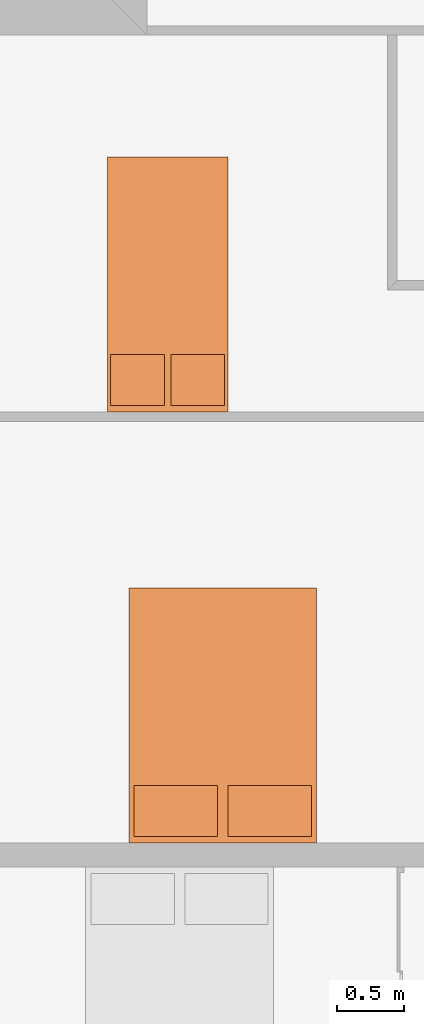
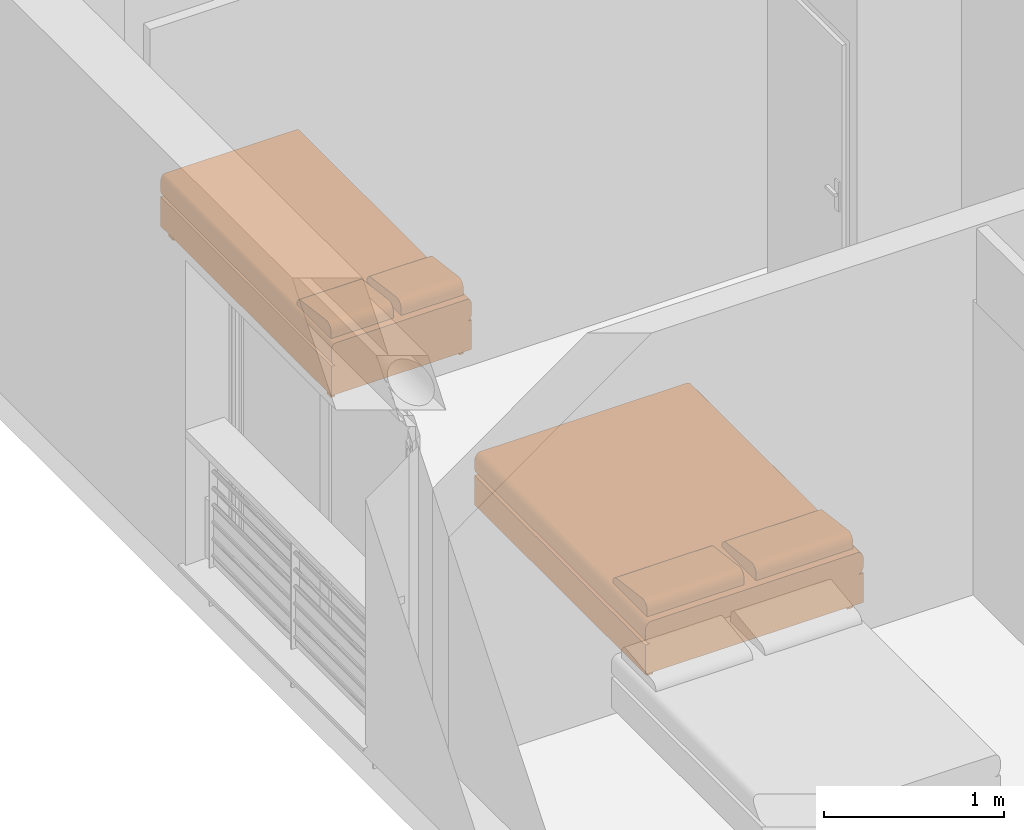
# One storey, part 157 of 171: 2 proxies.
"""IFC2X3 building model written with IfcOpenShell, lengths in millimetres."""

from ifc_helpers import new_model, entity, si_unit, converted_unit, derived_unit, money_unit, direction, frame, origin_with_axes, place, context, subcontext, project, spatial, open_shell, faceted_brep, surface_model, source, transform, mapped, type_object, element, save


model = new_model("IFC2X3")

# Units and contexts
model_context = context("Model", 3, precision=0.01, world=origin_with_axes(), true_north=direction((0.0, 1.0)))
body_context = subcontext(model_context, "Body", "Model", "MODEL_VIEW")
ifc_project = project(units=[si_unit("LENGTHUNIT", "METRE", prefix="MILLI"), si_unit("AREAUNIT", "SQUARE_METRE"), si_unit("VOLUMEUNIT", "CUBIC_METRE"), converted_unit("PLANEANGLEUNIT", "DEGREE", entity("IfcPlaneAngleMeasure", 0.0174532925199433), si_unit("PLANEANGLEUNIT", "RADIAN"), dimensions=[0, 0, 0, 0, 0, 0, 0]), money_unit("USD"), converted_unit("TIMEUNIT", "Year", entity("IfcTimeMeasure", 31557600.0), si_unit("TIMEUNIT", "SECOND"), dimensions=[0, 0, 1, 0, 0, 0, 0]), si_unit("MASSUNIT", "GRAM", prefix="KILO"), si_unit("THERMODYNAMICTEMPERATUREUNIT", "DEGREE_CELSIUS"), si_unit("LUMINOUSINTENSITYUNIT", "LUMEN"), si_unit("ENERGYUNIT", "JOULE", prefix="MEGA"), derived_unit("THERMALCONDUCTANCEUNIT", [(si_unit("POWERUNIT", "WATT"), 1), (si_unit("LENGTHUNIT", "METRE"), -1), (si_unit("THERMODYNAMICTEMPERATUREUNIT", "KELVIN"), -1)]), derived_unit("SPECIFICHEATCAPACITYUNIT", [(si_unit("ENERGYUNIT", "JOULE"), 1), (si_unit("MASSUNIT", "GRAM", prefix="KILO"), -1), (si_unit("THERMODYNAMICTEMPERATUREUNIT", "KELVIN"), -1)]), derived_unit("MASSDENSITYUNIT", [(si_unit("MASSUNIT", "GRAM", prefix="KILO"), 1), (si_unit("VOLUMEUNIT", "CUBIC_METRE"), -1)])], contexts=[model_context])

# Site, building, storey
site_placement = place(None, origin_with_axes())
site = spatial("IfcSite", under=ifc_project, at=site_placement, Name="Site", CompositionType="ELEMENT")
building_placement = place(site_placement, origin_with_axes())
building = spatial("IfcBuilding", under=site, at=building_placement, Name="Bâtiment", CompositionType="ELEMENT")
storey_placement = place(building_placement, frame((0.0, 0.0, 3000.0), z_axis=(0.0, 0.0, 1.0), x_axis=(1.0, 0.0, 0.0)))
storey = spatial("IfcBuildingStorey", under=building, at=storey_placement, Name="rdc", CompositionType="ELEMENT", Elevation=3000.0)

# Proxies
building_element_proxy_type = type_object("IfcBuildingElementProxyType", PredefinedType="NOTDEFINED")
shared_shape_1 = source(origin_with_axes(), body_context, "Body", "SurfaceModel", [
    faceted_brep([(400.0, -95.0, 0.0), (400.0, -47.5, 0.0), (425.0000000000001, -47.5, 0.0), (425.0000000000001, -95.0, 0.0), (400.0, -95.0, 50.0), (400.0, -47.5, 50.0), (425.0000000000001, -47.5, 50.0), (425.0000000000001, -95.0, 50.0)], [[[0, 1, 2, 3]], [[0, 4, 5, 1]], [[1, 5, 6, 2]], [[2, 6, 7, 3]], [[3, 7, 4, 0]], [[7, 6, 5, 4]]]),
    faceted_brep([(400.0, -1852.5, 0.0), (400.0, -1805.0, 0.0), (425.0000000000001, -1805.0, 0.0), (425.0000000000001, -1852.5, 0.0), (400.0, -1852.5, 50.0), (400.0, -1805.0, 50.0), (425.0000000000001, -1805.0, 50.0), (425.0000000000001, -1852.5, 50.0)], [[[0, 1, 2, 3]], [[0, 4, 5, 1]], [[1, 5, 6, 2]], [[2, 6, 7, 3]], [[3, 7, 4, 0]], [[7, 6, 5, 4]]]),
    faceted_brep([(-425.0000000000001, -1852.5, 0.0), (-425.0000000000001, -1805.0, 0.0), (-400.0, -1805.0, 0.0), (-400.0, -1852.5, 0.0), (-425.0000000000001, -1852.5, 50.0), (-425.0000000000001, -1805.0, 50.0), (-400.0, -1805.0, 50.0), (-400.0, -1852.5, 50.0)], [[[0, 1, 2, 3]], [[0, 4, 5, 1]], [[1, 5, 6, 2]], [[2, 6, 7, 3]], [[3, 7, 4, 0]], [[7, 6, 5, 4]]]),
    faceted_brep([(-425.0000000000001, -94.99999999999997, 0.0), (-425.0000000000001, -47.49999999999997, 0.0), (-400.0, -47.49999999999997, 0.0), (-400.0, -94.99999999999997, 0.0), (-425.0000000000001, -94.99999999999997, 50.0), (-425.0000000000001, -47.49999999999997, 50.0), (-400.0, -47.49999999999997, 50.0), (-400.0, -94.99999999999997, 50.0)], [[[0, 1, 2, 3]], [[0, 4, 5, 1]], [[1, 5, 6, 2]], [[2, 6, 7, 3]], [[3, 7, 4, 0]], [[7, 6, 5, 4]]]),
    faceted_brep([(450.0, 0.0, 50.0), (450.0, -1900.0, 50.00000000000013), (-450.0, -1900.0, 50.00000000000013), (-450.0, 0.0, 50.0), (450.0, 0.0, 250.0), (450.0, -1900.0, 250.0000000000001), (-450.0, -1900.0, 250.0000000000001), (-450.0, 0.0, 250.0)], [[[0, 1, 2, 3]], [[4, 5, 1, 0]], [[1, 5, 6, 2]], [[3, 2, 6, 7]], [[0, 3, 7, 4]], [[7, 6, 5, 4]]]),
    surface_model("IfcShellBasedSurfaceModel", [(-425.0000000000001, 0.0, 250.0), (-425.0000000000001, -1900.0, 250.0000000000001), (-429.3412044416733, -1900.0, 250.7596123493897), (-429.3412044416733, 0.0, 250.7596123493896), (425.0000000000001, -1900.0, 250.0000000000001), (429.3412044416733, -1900.0, 250.7596123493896), (433.5505035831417, -1900.0, 253.0153689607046), (437.5, -1900.0, 256.6987298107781), (441.0696902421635, -1900.0, 261.6977778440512), (444.1511110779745, -1900.0, 267.8606195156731), (446.650635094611, -1900.0, 275.0000000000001), (448.4923155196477, -1900.0, 282.8989928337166), (449.6201938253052, -1900.0, 291.3175911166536), (450.0, -1900.0, 300.0000000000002), (450.0000000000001, -1900.0, 350.0000000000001), (449.6201938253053, -1900.0, 358.6824088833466), (448.4923155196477, -1900.0, 367.1010071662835), (446.650635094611, -1900.0, 375.0000000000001), (444.1511110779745, -1900.0, 382.1393804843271), (441.0696902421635, -1900.0, 388.302222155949), (437.5000000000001, -1900.0, 393.3012701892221), (433.5505035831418, -1900.0, 396.9846310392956), (429.3412044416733, -1900.0, 399.2403876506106), (425.0000000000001, -1900.0, 400.0000000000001), (-425.0, -1900.0, 400.0000000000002), (-429.3412044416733, -1900.0, 399.2403876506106), (-433.5505035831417, -1900.0, 396.9846310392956), (-437.5, -1900.0, 393.3012701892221), (-441.0696902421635, -1900.0, 388.302222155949), (-444.1511110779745, -1900.0, 382.1393804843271), (-446.6506350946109, -1900.0, 375.0000000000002), (-448.4923155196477, -1900.0, 367.1010071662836), (-449.6201938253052, -1900.0, 358.6824088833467), (-450.0, -1900.0, 350.0000000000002), (-450.0, -1900.0, 300.0000000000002), (-449.6201938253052, -1900.0, 291.3175911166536), (-448.4923155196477, -1900.0, 282.8989928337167), (-446.650635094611, -1900.0, 275.0000000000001), (-444.1511110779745, -1900.0, 267.8606195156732), (-441.0696902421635, -1900.0, 261.6977778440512), (-437.5000000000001, -1900.0, 256.6987298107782), (-433.5505035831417, -1900.0, 253.0153689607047), (-433.5505035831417, 0.0, 253.0153689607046), (425.0000000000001, 0.0, 250.0), (-437.5000000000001, 0.0, 256.698729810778), (-441.0696902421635, 0.0, 261.6977778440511), (-444.1511110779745, 0.0, 267.8606195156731), (-446.650635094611, 0.0, 275.0), (-448.4923155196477, 0.0, 282.8989928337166), (-449.6201938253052, 0.0, 291.3175911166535), (-450.0, 0.0, 300.0000000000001), (-450.0, 0.0, 350.0000000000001), (-449.6201938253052, 0.0, 358.6824088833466), (-448.4923155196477, 0.0, 367.1010071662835), (-446.6506350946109, 0.0, 375.0000000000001), (-444.1511110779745, 0.0, 382.139380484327), (-441.0696902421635, 0.0, 388.3022221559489), (-437.5, 0.0, 393.301270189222), (-433.5505035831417, 0.0, 396.9846310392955), (-429.3412044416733, 0.0, 399.2403876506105), (-425.0, 0.0, 400.0000000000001), (425.0000000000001, 0.0, 400.0), (429.3412044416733, 0.0, 399.2403876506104), (433.5505035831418, 0.0, 396.9846310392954), (437.5000000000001, 0.0, 393.301270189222), (441.0696902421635, 0.0, 388.3022221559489), (444.1511110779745, 0.0, 382.139380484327), (446.650635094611, 0.0, 375.0), (448.4923155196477, 0.0, 367.1010071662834), (449.6201938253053, 0.0, 358.6824088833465), (450.0000000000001, 0.0, 350.0), (450.0, 0.0, 300.0000000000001), (449.6201938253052, 0.0, 291.3175911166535), (448.4923155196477, 0.0, 282.8989928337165), (446.650635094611, 0.0, 275.0), (444.1511110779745, 0.0, 267.860619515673), (441.0696902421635, 0.0, 261.6977778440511), (437.5, 0.0, 256.698729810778), (433.5505035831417, 0.0, 253.0153689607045), (429.3412044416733, 0.0, 250.7596123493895)], [open_shell([[[0, 1, 2, 3]], [[4, 5, 6, 7, 8, 9, 10, 11, 12, 13, 14, 15, 16, 17, 18, 19, 20, 21, 22, 23, 24, 25, 26, 27, 28, 29, 30, 31, 32, 33, 34, 35, 36, 37, 38, 39, 40, 41, 2, 1]], [[3, 2, 41, 42]], [[43, 0, 3, 42, 44, 45, 46, 47, 48, 49, 50, 51, 52, 53, 54, 55, 56, 57, 58, 59, 60, 61, 62, 63, 64, 65, 66, 67, 68, 69, 70, 71, 72, 73, 74, 75, 76, 77, 78, 79]], [[79, 5, 4, 43]], [[78, 6, 5, 79]], [[77, 7, 6, 78]], [[76, 8, 7, 77]], [[75, 9, 8, 76]], [[74, 10, 9, 75]], [[73, 11, 10, 74]], [[72, 12, 11, 73]], [[71, 13, 12, 72]], [[70, 14, 13, 71]], [[69, 15, 14, 70]], [[68, 16, 15, 69]], [[67, 17, 16, 68]], [[66, 18, 17, 67]], [[65, 19, 18, 66]], [[64, 20, 19, 65]], [[63, 21, 20, 64]], [[62, 22, 21, 63]], [[61, 23, 22, 62]], [[60, 24, 23, 61]], [[59, 25, 24, 60]], [[58, 26, 25, 59]], [[57, 27, 26, 58]], [[56, 28, 27, 57]], [[55, 29, 28, 56]], [[54, 30, 29, 55]], [[53, 31, 30, 54]], [[52, 32, 31, 53]], [[51, 33, 32, 52]], [[50, 34, 33, 51]], [[49, 35, 34, 50]], [[48, 36, 35, 49]], [[47, 37, 36, 48]], [[46, 38, 37, 47]], [[45, 39, 38, 46]], [[44, 40, 39, 45]], [[42, 41, 40, 44]]])]),
    faceted_brep([(-24.99999999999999, -47.49999999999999, 400.0), (-425.0, -47.50000000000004, 400.0000000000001), (-425.0, -47.50000000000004, 443.4000000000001), (-24.99999999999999, -47.49999999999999, 443.4), (-24.99999999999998, -427.5, 400.0), (-425.0, -427.5, 400.0000000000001), (-425.0, -427.6960812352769, 408.6954428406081), (-425.0, -426.4675711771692, 417.2966661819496), (-425.0, -423.8511300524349, 425.5469991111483), (-425.0, -419.924835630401, 433.2002417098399), (-425.0, -414.8058532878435, 440.0280119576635), (-425.0, -408.6469396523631, 445.826560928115), (-425.0, -401.6318841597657, 450.4228529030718), (-425.0, -393.9700245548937, 453.6797289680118), (-425.0, -385.89, 455.5000000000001), (-425.0, -100.8900000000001, 493.0000000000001), (-425.0, -92.85488048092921, 493.3370808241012), (-425.0, -84.88093291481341, 492.2422169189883), (-425.0, -77.19681007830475, 489.7468034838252), (-425.0, -70.02285403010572, 485.922396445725), (-425.0, -63.56477780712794, 480.878660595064), (-425.0, -58.00776660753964, 474.7602249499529), (-425.0, -53.51116760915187, 467.7425355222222), (-425.0, -50.20392069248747, 460.0268244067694), (-425.0, -48.18086109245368, 451.8343394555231), (-24.99999999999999, -48.18086109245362, 451.834339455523), (-24.99999999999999, -50.20392069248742, 460.0268244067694), (-24.99999999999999, -53.51116760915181, 467.7425355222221), (-24.99999999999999, -58.00776660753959, 474.7602249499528), (-24.99999999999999, -63.56477780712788, 480.878660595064), (-24.99999999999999, -70.02285403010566, 485.922396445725), (-24.99999999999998, -77.19681007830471, 489.7468034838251), (-24.99999999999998, -84.88093291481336, 492.2422169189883), (-24.99999999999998, -92.85488048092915, 493.3370808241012), (-24.99999999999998, -100.89, 493.0000000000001), (-24.99999999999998, -385.89, 455.5), (-24.99999999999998, -393.9700245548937, 453.6797289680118), (-24.99999999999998, -401.6318841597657, 450.4228529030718), (-24.99999999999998, -408.6469396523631, 445.826560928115), (-24.99999999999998, -414.8058532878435, 440.0280119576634), (-24.99999999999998, -419.9248356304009, 433.2002417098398), (-24.99999999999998, -423.8511300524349, 425.5469991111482), (-24.99999999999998, -426.4675711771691, 417.2966661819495), (-24.99999999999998, -427.6960812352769, 408.695442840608)], [[[0, 1, 2, 3]], [[4, 5, 1, 0]], [[1, 5, 6, 7, 8, 9, 10, 11, 12, 13, 14, 15, 16, 17, 18, 19, 20, 21, 22, 23, 24, 2]], [[3, 2, 24, 25]], [[0, 3, 25, 26, 27, 28, 29, 30, 31, 32, 33, 34, 35, 36, 37, 38, 39, 40, 41, 42, 43, 4]], [[43, 6, 5, 4]], [[42, 7, 6, 43]], [[41, 8, 7, 42]], [[40, 9, 8, 41]], [[39, 10, 9, 40]], [[38, 11, 10, 39]], [[37, 12, 11, 38]], [[36, 13, 12, 37]], [[35, 14, 13, 36]], [[34, 15, 14, 35]], [[33, 16, 15, 34]], [[32, 17, 16, 33]], [[31, 18, 17, 32]], [[30, 19, 18, 31]], [[29, 20, 19, 30]], [[28, 21, 20, 29]], [[27, 22, 21, 28]], [[26, 23, 22, 27]], [[25, 24, 23, 26]]]),
    faceted_brep([(425.0000000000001, -47.49999999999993, 399.9999999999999), (25.00000000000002, -47.49999999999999, 400.0), (25.00000000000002, -47.49999999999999, 443.4), (425.0000000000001, -47.49999999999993, 443.4), (425.0000000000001, -427.4999999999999, 399.9999999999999), (25.00000000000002, -427.4999999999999, 400.0), (25.00000000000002, -427.6960812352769, 408.695442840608), (25.00000000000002, -426.4675711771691, 417.2966661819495), (25.00000000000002, -423.8511300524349, 425.5469991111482), (25.00000000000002, -419.9248356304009, 433.2002417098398), (25.00000000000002, -414.8058532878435, 440.0280119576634), (25.00000000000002, -408.6469396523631, 445.826560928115), (25.00000000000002, -401.6318841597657, 450.4228529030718), (25.00000000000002, -393.9700245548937, 453.6797289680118), (25.00000000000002, -385.8899999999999, 455.5), (25.00000000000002, -100.89, 493.0000000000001), (25.00000000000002, -92.85488048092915, 493.3370808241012), (25.00000000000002, -84.88093291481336, 492.2422169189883), (25.00000000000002, -77.19681007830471, 489.7468034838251), (25.00000000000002, -70.02285403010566, 485.922396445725), (25.00000000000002, -63.56477780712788, 480.878660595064), (25.00000000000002, -58.00776660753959, 474.7602249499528), (25.00000000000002, -53.51116760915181, 467.7425355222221), (25.00000000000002, -50.20392069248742, 460.0268244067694), (25.00000000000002, -48.18086109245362, 451.834339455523), (425.0000000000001, -48.18086109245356, 451.834339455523), (425.0000000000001, -50.20392069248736, 460.0268244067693), (425.0000000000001, -53.51116760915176, 467.7425355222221), (425.0000000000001, -58.00776660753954, 474.7602249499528), (425.0000000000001, -63.56477780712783, 480.8786605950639), (425.0000000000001, -70.0228540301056, 485.9223964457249), (425.0000000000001, -77.19681007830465, 489.7468034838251), (425.0000000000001, -84.8809329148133, 492.2422169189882), (425.0000000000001, -92.8548804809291, 493.3370808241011), (425.0000000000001, -100.89, 493.0), (425.0000000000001, -385.8899999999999, 455.4999999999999), (425.0000000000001, -393.9700245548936, 453.6797289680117), (425.0000000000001, -401.6318841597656, 450.4228529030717), (425.0000000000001, -408.646939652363, 445.8265609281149), (425.0000000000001, -414.8058532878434, 440.0280119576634), (425.0000000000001, -419.9248356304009, 433.2002417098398), (425.0000000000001, -423.8511300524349, 425.5469991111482), (425.0000000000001, -426.4675711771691, 417.2966661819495), (425.0000000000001, -427.6960812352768, 408.6954428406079)], [[[0, 1, 2, 3]], [[4, 5, 1, 0]], [[1, 5, 6, 7, 8, 9, 10, 11, 12, 13, 14, 15, 16, 17, 18, 19, 20, 21, 22, 23, 24, 2]], [[3, 2, 24, 25]], [[0, 3, 25, 26, 27, 28, 29, 30, 31, 32, 33, 34, 35, 36, 37, 38, 39, 40, 41, 42, 43, 4]], [[43, 6, 5, 4]], [[42, 7, 6, 43]], [[41, 8, 7, 42]], [[40, 9, 8, 41]], [[39, 10, 9, 40]], [[38, 11, 10, 39]], [[37, 12, 11, 38]], [[36, 13, 12, 37]], [[35, 14, 13, 36]], [[34, 15, 14, 35]], [[33, 16, 15, 34]], [[32, 17, 16, 33]], [[31, 18, 17, 32]], [[30, 19, 18, 31]], [[29, 20, 19, 30]], [[28, 21, 20, 29]], [[27, 22, 21, 28]], [[26, 23, 22, 27]], [[25, 24, 23, 26]]]),
])
proxy_1_placement = place(storey_placement, frame((2218630.361488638, -629220.7852898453, 0.0), z_axis=(0.0, 0.0, 1.0), x_axis=(-0.9999999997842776, -2.077125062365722e-05, 0.0)))
element("IfcBuildingElementProxy", 1, at=proxy_1_placement, inside=storey, type_object=building_element_proxy_type, Name="Obj.-003", context=body_context, shape_type="MappedRepresentation", body=[
    mapped(shared_shape_1, transform((0.0, 0.0, 0.0))),
])
shared_shape_2 = source(origin_with_axes(), body_context, "Body", "SurfaceModel", [
    faceted_brep([(622.2222222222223, -95.0, 0.0), (622.2222222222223, -47.5, 0.0), (661.1111111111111, -47.5, 0.0), (661.1111111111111, -95.0, 0.0), (622.2222222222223, -95.0, 50.0), (622.2222222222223, -47.5, 50.0), (661.1111111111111, -47.5, 50.0), (661.1111111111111, -95.0, 50.0)], [[[0, 1, 2, 3]], [[0, 4, 5, 1]], [[1, 5, 6, 2]], [[2, 6, 7, 3]], [[3, 7, 4, 0]], [[7, 6, 5, 4]]]),
    faceted_brep([(622.2222222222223, -1852.5, 0.0), (622.2222222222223, -1805.0, 0.0), (661.1111111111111, -1805.0, 0.0), (661.1111111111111, -1852.5, 0.0), (622.2222222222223, -1852.5, 50.0), (622.2222222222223, -1805.0, 50.0), (661.1111111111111, -1805.0, 50.0), (661.1111111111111, -1852.5, 50.0)], [[[0, 1, 2, 3]], [[0, 4, 5, 1]], [[1, 5, 6, 2]], [[2, 6, 7, 3]], [[3, 7, 4, 0]], [[7, 6, 5, 4]]]),
    faceted_brep([(-661.111111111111, -1852.5, 0.0), (-661.111111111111, -1805.0, 0.0), (-622.2222222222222, -1805.0, 0.0), (-622.2222222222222, -1852.5, 0.0), (-661.111111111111, -1852.5, 50.0), (-661.111111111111, -1805.0, 50.0), (-622.2222222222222, -1805.0, 50.0), (-622.2222222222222, -1852.5, 50.0)], [[[0, 1, 2, 3]], [[0, 4, 5, 1]], [[1, 5, 6, 2]], [[2, 6, 7, 3]], [[3, 7, 4, 0]], [[7, 6, 5, 4]]]),
    faceted_brep([(-661.111111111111, -94.99999999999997, 0.0), (-661.111111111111, -47.49999999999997, 0.0), (-622.2222222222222, -47.49999999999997, 0.0), (-622.2222222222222, -94.99999999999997, 0.0), (-661.111111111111, -94.99999999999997, 50.0), (-661.111111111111, -47.49999999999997, 50.0), (-622.2222222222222, -47.49999999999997, 50.0), (-622.2222222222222, -94.99999999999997, 50.0)], [[[0, 1, 2, 3]], [[0, 4, 5, 1]], [[1, 5, 6, 2]], [[2, 6, 7, 3]], [[3, 7, 4, 0]], [[7, 6, 5, 4]]]),
    faceted_brep([(700.0, 0.0, 50.0), (700.0, -1900.0, 50.00000000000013), (-700.0, -1900.0, 50.00000000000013), (-700.0, 0.0, 50.0), (700.0, 0.0, 250.0), (700.0, -1900.0, 250.0000000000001), (-700.0, -1900.0, 250.0000000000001), (-700.0, 0.0, 250.0)], [[[0, 1, 2, 3]], [[4, 5, 1, 0]], [[1, 5, 6, 2]], [[3, 2, 6, 7]], [[0, 3, 7, 4]], [[7, 6, 5, 4]]]),
    surface_model("IfcShellBasedSurfaceModel", [(-661.1111111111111, 0.0, 250.0), (-661.1111111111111, -1900.0, 250.0000000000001), (-667.8640957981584, -1900.0, 250.7596123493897), (-667.8640957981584, 0.0, 250.7596123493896), (661.1111111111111, -1900.0, 250.0000000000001), (667.8640957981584, -1900.0, 250.7596123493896), (674.4118944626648, -1900.0, 253.0153689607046), (680.5555555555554, -1900.0, 256.6987298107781), (686.1084070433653, -1900.0, 261.6977778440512), (690.9017283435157, -1900.0, 267.8606195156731), (694.7898768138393, -1900.0, 275.0000000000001), (697.654713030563, -1900.0, 282.8989928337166), (699.4091903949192, -1900.0, 291.3175911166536), (700.0, -1900.0, 300.0000000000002), (700.0000000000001, -1900.0, 350.0000000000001), (699.4091903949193, -1900.0, 358.6824088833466), (697.654713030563, -1900.0, 367.1010071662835), (694.7898768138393, -1900.0, 375.0000000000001), (690.9017283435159, -1900.0, 382.1393804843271), (686.1084070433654, -1900.0, 388.302222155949), (680.5555555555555, -1900.0, 393.3012701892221), (674.4118944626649, -1900.0, 396.9846310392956), (667.8640957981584, -1900.0, 399.2403876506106), (661.1111111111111, -1900.0, 400.0000000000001), (-661.111111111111, -1900.0, 400.0000000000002), (-667.8640957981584, -1900.0, 399.2403876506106), (-674.4118944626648, -1900.0, 396.9846310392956), (-680.5555555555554, -1900.0, 393.3012701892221), (-686.1084070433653, -1900.0, 388.302222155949), (-690.9017283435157, -1900.0, 382.1393804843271), (-694.7898768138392, -1900.0, 375.0000000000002), (-697.654713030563, -1900.0, 367.1010071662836), (-699.4091903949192, -1900.0, 358.6824088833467), (-700.0, -1900.0, 350.0000000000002), (-700.0, -1900.0, 300.0000000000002), (-699.4091903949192, -1900.0, 291.3175911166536), (-697.654713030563, -1900.0, 282.8989928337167), (-694.7898768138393, -1900.0, 275.0000000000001), (-690.9017283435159, -1900.0, 267.8606195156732), (-686.1084070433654, -1900.0, 261.6977778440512), (-680.5555555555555, -1900.0, 256.6987298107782), (-674.4118944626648, -1900.0, 253.0153689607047), (-674.4118944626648, 0.0, 253.0153689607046), (661.1111111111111, 0.0, 250.0), (-680.5555555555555, 0.0, 256.698729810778), (-686.1084070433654, 0.0, 261.6977778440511), (-690.9017283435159, 0.0, 267.8606195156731), (-694.7898768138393, 0.0, 275.0), (-697.654713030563, 0.0, 282.8989928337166), (-699.4091903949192, 0.0, 291.3175911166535), (-700.0, 0.0, 300.0000000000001), (-700.0, 0.0, 350.0000000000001), (-699.4091903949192, 0.0, 358.6824088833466), (-697.654713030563, 0.0, 367.1010071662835), (-694.7898768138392, 0.0, 375.0000000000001), (-690.9017283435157, 0.0, 382.139380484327), (-686.1084070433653, 0.0, 388.3022221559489), (-680.5555555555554, 0.0, 393.301270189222), (-674.4118944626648, 0.0, 396.9846310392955), (-667.8640957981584, 0.0, 399.2403876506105), (-661.111111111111, 0.0, 400.0000000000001), (661.1111111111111, 0.0, 400.0), (667.8640957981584, 0.0, 399.2403876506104), (674.4118944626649, 0.0, 396.9846310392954), (680.5555555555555, 0.0, 393.301270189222), (686.1084070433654, 0.0, 388.3022221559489), (690.9017283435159, 0.0, 382.139380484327), (694.7898768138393, 0.0, 375.0), (697.654713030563, 0.0, 367.1010071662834), (699.4091903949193, 0.0, 358.6824088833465), (700.0000000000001, 0.0, 350.0), (700.0, 0.0, 300.0000000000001), (699.4091903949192, 0.0, 291.3175911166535), (697.654713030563, 0.0, 282.8989928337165), (694.7898768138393, 0.0, 275.0), (690.9017283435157, 0.0, 267.860619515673), (686.1084070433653, 0.0, 261.6977778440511), (680.5555555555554, 0.0, 256.698729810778), (674.4118944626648, 0.0, 253.0153689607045), (667.8640957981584, 0.0, 250.7596123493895)], [open_shell([[[0, 1, 2, 3]], [[4, 5, 6, 7, 8, 9, 10, 11, 12, 13, 14, 15, 16, 17, 18, 19, 20, 21, 22, 23, 24, 25, 26, 27, 28, 29, 30, 31, 32, 33, 34, 35, 36, 37, 38, 39, 40, 41, 2, 1]], [[3, 2, 41, 42]], [[43, 0, 3, 42, 44, 45, 46, 47, 48, 49, 50, 51, 52, 53, 54, 55, 56, 57, 58, 59, 60, 61, 62, 63, 64, 65, 66, 67, 68, 69, 70, 71, 72, 73, 74, 75, 76, 77, 78, 79]], [[79, 5, 4, 43]], [[78, 6, 5, 79]], [[77, 7, 6, 78]], [[76, 8, 7, 77]], [[75, 9, 8, 76]], [[74, 10, 9, 75]], [[73, 11, 10, 74]], [[72, 12, 11, 73]], [[71, 13, 12, 72]], [[70, 14, 13, 71]], [[69, 15, 14, 70]], [[68, 16, 15, 69]], [[67, 17, 16, 68]], [[66, 18, 17, 67]], [[65, 19, 18, 66]], [[64, 20, 19, 65]], [[63, 21, 20, 64]], [[62, 22, 21, 63]], [[61, 23, 22, 62]], [[60, 24, 23, 61]], [[59, 25, 24, 60]], [[58, 26, 25, 59]], [[57, 27, 26, 58]], [[56, 28, 27, 57]], [[55, 29, 28, 56]], [[54, 30, 29, 55]], [[53, 31, 30, 54]], [[52, 32, 31, 53]], [[51, 33, 32, 52]], [[50, 34, 33, 51]], [[49, 35, 34, 50]], [[48, 36, 35, 49]], [[47, 37, 36, 48]], [[46, 38, 37, 47]], [[45, 39, 38, 46]], [[44, 40, 39, 45]], [[42, 41, 40, 44]]])]),
    faceted_brep([(-38.88888888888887, -47.49999999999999, 400.0), (-661.1111111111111, -47.50000000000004, 400.0000000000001), (-661.1111111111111, -47.50000000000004, 443.4000000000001), (-38.88888888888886, -47.49999999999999, 443.4), (-38.88888888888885, -427.5, 400.0), (-661.1111111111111, -427.5, 400.0000000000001), (-661.1111111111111, -427.6960812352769, 408.6954428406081), (-661.1111111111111, -426.4675711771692, 417.2966661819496), (-661.1111111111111, -423.8511300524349, 425.5469991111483), (-661.1111111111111, -419.924835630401, 433.2002417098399), (-661.1111111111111, -414.8058532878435, 440.0280119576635), (-661.1111111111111, -408.6469396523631, 445.826560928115), (-661.1111111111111, -401.6318841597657, 450.4228529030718), (-661.1111111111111, -393.9700245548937, 453.6797289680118), (-661.1111111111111, -385.89, 455.5000000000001), (-661.1111111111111, -100.8900000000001, 493.0000000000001), (-661.1111111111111, -92.85488048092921, 493.3370808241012), (-661.1111111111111, -84.88093291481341, 492.2422169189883), (-661.1111111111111, -77.19681007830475, 489.7468034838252), (-661.1111111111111, -70.02285403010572, 485.922396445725), (-661.1111111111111, -63.56477780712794, 480.878660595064), (-661.1111111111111, -58.00776660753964, 474.7602249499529), (-661.1111111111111, -53.51116760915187, 467.7425355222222), (-661.1111111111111, -50.20392069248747, 460.0268244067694), (-661.1111111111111, -48.18086109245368, 451.8343394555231), (-38.88888888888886, -48.18086109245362, 451.834339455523), (-38.88888888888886, -50.20392069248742, 460.0268244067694), (-38.88888888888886, -53.51116760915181, 467.7425355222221), (-38.88888888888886, -58.00776660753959, 474.7602249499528), (-38.88888888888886, -63.56477780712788, 480.878660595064), (-38.88888888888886, -70.02285403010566, 485.922396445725), (-38.88888888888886, -77.19681007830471, 489.7468034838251), (-38.88888888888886, -84.88093291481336, 492.2422169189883), (-38.88888888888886, -92.85488048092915, 493.3370808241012), (-38.88888888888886, -100.89, 493.0000000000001), (-38.88888888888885, -385.89, 455.5), (-38.88888888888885, -393.9700245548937, 453.6797289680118), (-38.88888888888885, -401.6318841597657, 450.4228529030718), (-38.88888888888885, -408.6469396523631, 445.826560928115), (-38.88888888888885, -414.8058532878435, 440.0280119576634), (-38.88888888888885, -419.9248356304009, 433.2002417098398), (-38.88888888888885, -423.8511300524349, 425.5469991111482), (-38.88888888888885, -426.4675711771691, 417.2966661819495), (-38.88888888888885, -427.6960812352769, 408.695442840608)], [[[0, 1, 2, 3]], [[4, 5, 1, 0]], [[1, 5, 6, 7, 8, 9, 10, 11, 12, 13, 14, 15, 16, 17, 18, 19, 20, 21, 22, 23, 24, 2]], [[3, 2, 24, 25]], [[0, 3, 25, 26, 27, 28, 29, 30, 31, 32, 33, 34, 35, 36, 37, 38, 39, 40, 41, 42, 43, 4]], [[43, 6, 5, 4]], [[42, 7, 6, 43]], [[41, 8, 7, 42]], [[40, 9, 8, 41]], [[39, 10, 9, 40]], [[38, 11, 10, 39]], [[37, 12, 11, 38]], [[36, 13, 12, 37]], [[35, 14, 13, 36]], [[34, 15, 14, 35]], [[33, 16, 15, 34]], [[32, 17, 16, 33]], [[31, 18, 17, 32]], [[30, 19, 18, 31]], [[29, 20, 19, 30]], [[28, 21, 20, 29]], [[27, 22, 21, 28]], [[26, 23, 22, 27]], [[25, 24, 23, 26]]]),
    faceted_brep([(661.1111111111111, -47.49999999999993, 399.9999999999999), (38.88888888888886, -47.49999999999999, 400.0), (38.88888888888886, -47.49999999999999, 443.4), (661.1111111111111, -47.49999999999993, 443.4), (661.1111111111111, -427.4999999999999, 399.9999999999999), (38.88888888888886, -427.4999999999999, 400.0), (38.88888888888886, -427.6960812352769, 408.695442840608), (38.88888888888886, -426.4675711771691, 417.2966661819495), (38.88888888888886, -423.8511300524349, 425.5469991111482), (38.88888888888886, -419.9248356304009, 433.2002417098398), (38.88888888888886, -414.8058532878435, 440.0280119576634), (38.88888888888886, -408.6469396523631, 445.826560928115), (38.88888888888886, -401.6318841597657, 450.4228529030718), (38.88888888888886, -393.9700245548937, 453.6797289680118), (38.88888888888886, -385.8899999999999, 455.5), (38.88888888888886, -100.89, 493.0000000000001), (38.88888888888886, -92.85488048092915, 493.3370808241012), (38.88888888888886, -84.88093291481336, 492.2422169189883), (38.88888888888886, -77.19681007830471, 489.7468034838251), (38.88888888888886, -70.02285403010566, 485.922396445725), (38.88888888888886, -63.56477780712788, 480.878660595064), (38.88888888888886, -58.00776660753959, 474.7602249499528), (38.88888888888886, -53.51116760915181, 467.7425355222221), (38.88888888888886, -50.20392069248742, 460.0268244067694), (38.88888888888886, -48.18086109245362, 451.834339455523), (661.1111111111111, -48.18086109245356, 451.834339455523), (661.1111111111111, -50.20392069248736, 460.0268244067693), (661.1111111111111, -53.51116760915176, 467.7425355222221), (661.1111111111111, -58.00776660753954, 474.7602249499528), (661.1111111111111, -63.56477780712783, 480.8786605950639), (661.1111111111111, -70.0228540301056, 485.9223964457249), (661.1111111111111, -77.19681007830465, 489.7468034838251), (661.1111111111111, -84.8809329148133, 492.2422169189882), (661.1111111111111, -92.8548804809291, 493.3370808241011), (661.1111111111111, -100.89, 493.0), (661.1111111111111, -385.8899999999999, 455.4999999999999), (661.1111111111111, -393.9700245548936, 453.6797289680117), (661.1111111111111, -401.6318841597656, 450.4228529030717), (661.1111111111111, -408.646939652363, 445.8265609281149), (661.1111111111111, -414.8058532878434, 440.0280119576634), (661.1111111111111, -419.9248356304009, 433.2002417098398), (661.1111111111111, -423.8511300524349, 425.5469991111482), (661.1111111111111, -426.4675711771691, 417.2966661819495), (661.1111111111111, -427.6960812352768, 408.6954428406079)], [[[0, 1, 2, 3]], [[4, 5, 1, 0]], [[1, 5, 6, 7, 8, 9, 10, 11, 12, 13, 14, 15, 16, 17, 18, 19, 20, 21, 22, 23, 24, 2]], [[3, 2, 24, 25]], [[0, 3, 25, 26, 27, 28, 29, 30, 31, 32, 33, 34, 35, 36, 37, 38, 39, 40, 41, 42, 43, 4]], [[43, 6, 5, 4]], [[42, 7, 6, 43]], [[41, 8, 7, 42]], [[40, 9, 8, 41]], [[39, 10, 9, 40]], [[38, 11, 10, 39]], [[37, 12, 11, 38]], [[36, 13, 12, 37]], [[35, 14, 13, 36]], [[34, 15, 14, 35]], [[33, 16, 15, 34]], [[32, 17, 16, 33]], [[31, 18, 17, 32]], [[30, 19, 18, 31]], [[29, 20, 19, 30]], [[28, 21, 20, 29]], [[27, 22, 21, 28]], [[26, 23, 22, 27]], [[25, 24, 23, 26]]]),
])
proxy_2_placement = place(storey_placement, frame((2219040.802146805, -632433.5130647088, 0.0), z_axis=(0.0, 0.0, 1.0), x_axis=(-0.9999999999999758, -2.201927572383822e-07, 0.0)))
element("IfcBuildingElementProxy", 2, at=proxy_2_placement, inside=storey, type_object=building_element_proxy_type, Name="Obj.-003", context=body_context, shape_type="MappedRepresentation", body=[
    mapped(shared_shape_2, transform((0.0, 0.0, 0.0))),
])

save(model, "model.ifc")
